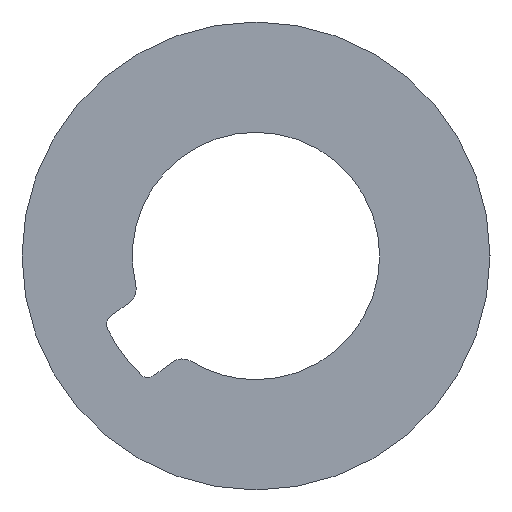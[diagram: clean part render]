
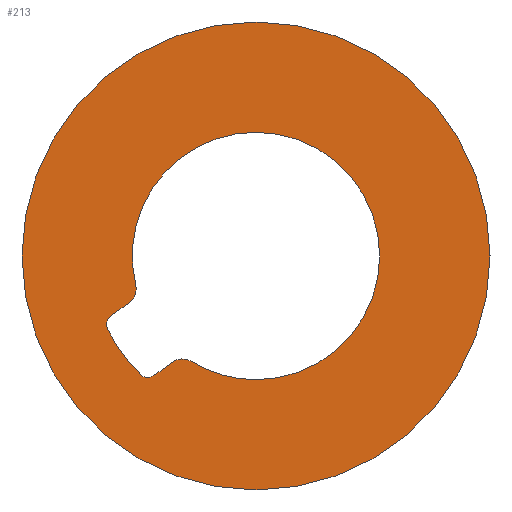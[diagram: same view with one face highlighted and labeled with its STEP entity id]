
A CAD part, left-side view. The second image highlights one B-rep face of the part: STEP entity #213.
In plain terms, the highlighted planar face has unit normal (-1, 0, 0).
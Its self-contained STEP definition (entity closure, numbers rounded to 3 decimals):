
#3 = ORIENTED_EDGE ( 'NONE', *, *, #275, .T. ) ;
#6 = ORIENTED_EDGE ( 'NONE', *, *, #288, .F. ) ;
#9 = ORIENTED_EDGE ( 'NONE', *, *, #290, .T. ) ;
#10 = ORIENTED_EDGE ( 'NONE', *, *, #289, .T. ) ;
#11 = ORIENTED_EDGE ( 'NONE', *, *, #268, .F. ) ;
#12 = ORIENTED_EDGE ( 'NONE', *, *, #272, .T. ) ;
#13 = ORIENTED_EDGE ( 'NONE', *, *, #279, .T. ) ;
#17 = ORIENTED_EDGE ( 'NONE', *, *, #293, .T. ) ;
#20 = ORIENTED_EDGE ( 'NONE', *, *, #292, .T. ) ;
#21 = ORIENTED_EDGE ( 'NONE', *, *, #291, .T. ) ;
#22 = ORIENTED_EDGE ( 'NONE', *, *, #295, .T. ) ;
#23 = ORIENTED_EDGE ( 'NONE', *, *, #294, .T. ) ;
#24 = ORIENTED_EDGE ( 'NONE', *, *, #262, .T. ) ;
#35 = CIRCLE ( 'NONE', #221, 0.3 ) ;
#37 = CIRCLE ( 'NONE', #222, 4.95 ) ;
#41 = CIRCLE ( 'NONE', #223, 0.3 ) ;
#42 = VECTOR ( 'NONE', #524, 1000. ) ;
#45 = CIRCLE ( 'NONE', #225, 0.5 ) ;
#46 = LINE ( 'NONE', #511, #42 ) ;
#47 = CIRCLE ( 'NONE', #226, 0.5 ) ;
#52 = VECTOR ( 'NONE', #465, 1000. ) ;
#53 = CIRCLE ( 'NONE', #227, 7. ) ;
#54 = LINE ( 'NONE', #521, #52 ) ;
#71 = CIRCLE ( 'NONE', #234, 3.7 ) ;
#79 = CIRCLE ( 'NONE', #236, 3.7 ) ;
#84 = CIRCLE ( 'NONE', #238, 3.7 ) ;
#94 = CIRCLE ( 'NONE', #240, 7. ) ;
#104 = CIRCLE ( 'NONE', #243, 0.3 ) ;
#113 = FACE_BOUND ( 'NONE', #158, .T. ) ;
#114 = FACE_OUTER_BOUND ( 'NONE', #157, .T. ) ;
#157 = EDGE_LOOP ( 'NONE', ( #6, #11 ) ) ;
#158 = EDGE_LOOP ( 'NONE', ( #10, #9, #3, #12, #13, #21, #20, #17, #24, #23, #22 ) ) ;
#213 = ADVANCED_FACE ( 'NONE', ( #114, #113 ), #397, .F. ) ;
#221 = AXIS2_PLACEMENT_3D ( 'NONE', #507, #508, #512 ) ;
#222 = AXIS2_PLACEMENT_3D ( 'NONE', #519, #518, #517 ) ;
#223 = AXIS2_PLACEMENT_3D ( 'NONE', #495, #479, #473 ) ;
#225 = AXIS2_PLACEMENT_3D ( 'NONE', #515, #516, #523 ) ;
#226 = AXIS2_PLACEMENT_3D ( 'NONE', #522, #520, #456 ) ;
#227 = AXIS2_PLACEMENT_3D ( 'NONE', #509, #510, #460 ) ;
#234 = AXIS2_PLACEMENT_3D ( 'NONE', #322, #321, #320 ) ;
#236 = AXIS2_PLACEMENT_3D ( 'NONE', #336, #335, #334 ) ;
#238 = AXIS2_PLACEMENT_3D ( 'NONE', #345, #343, #342 ) ;
#240 = AXIS2_PLACEMENT_3D ( 'NONE', #356, #354, #353 ) ;
#243 = AXIS2_PLACEMENT_3D ( 'NONE', #378, #377, #376 ) ;
#246 = AXIS2_PLACEMENT_3D ( 'NONE', #396, #394, #393 ) ;
#262 = EDGE_CURVE ( 'NONE', #450, #402, #104, .T. ) ;
#268 = EDGE_CURVE ( 'NONE', #383, #365, #94, .T. ) ;
#272 = EDGE_CURVE ( 'NONE', #387, #306, #84, .T. ) ;
#275 = EDGE_CURVE ( 'NONE', #326, #387, #79, .T. ) ;
#279 = EDGE_CURVE ( 'NONE', #306, #371, #71, .T. ) ;
#288 = EDGE_CURVE ( 'NONE', #365, #383, #53, .T. ) ;
#289 = EDGE_CURVE ( 'NONE', #449, #445, #54, .T. ) ;
#290 = EDGE_CURVE ( 'NONE', #445, #326, #47, .T. ) ;
#291 = EDGE_CURVE ( 'NONE', #371, #446, #45, .T. ) ;
#292 = EDGE_CURVE ( 'NONE', #446, #448, #46, .T. ) ;
#293 = EDGE_CURVE ( 'NONE', #448, #450, #41, .T. ) ;
#294 = EDGE_CURVE ( 'NONE', #402, #447, #37, .T. ) ;
#295 = EDGE_CURVE ( 'NONE', #447, #449, #35, .T. ) ;
#306 = VERTEX_POINT ( 'NONE', #454 ) ;
#320 = DIRECTION ( 'NONE',  ( 0., 0., -1. ) ) ;
#321 = DIRECTION ( 'NONE',  ( 1., 0., 0. ) ) ;
#322 = CARTESIAN_POINT ( 'NONE',  ( -185.5, 0., 0. ) ) ;
#326 = VERTEX_POINT ( 'NONE', #452 ) ;
#334 = DIRECTION ( 'NONE',  ( 0., 0., -1. ) ) ;
#335 = DIRECTION ( 'NONE',  ( 1., 0., 0. ) ) ;
#336 = CARTESIAN_POINT ( 'NONE',  ( -185.5, 0., 0. ) ) ;
#342 = DIRECTION ( 'NONE',  ( 0., 0., -1. ) ) ;
#343 = DIRECTION ( 'NONE',  ( 1., 0., 0. ) ) ;
#345 = CARTESIAN_POINT ( 'NONE',  ( -185.5, 0., 0. ) ) ;
#353 = DIRECTION ( 'NONE',  ( 0., 0., -1. ) ) ;
#354 = DIRECTION ( 'NONE',  ( 1., 0., 0. ) ) ;
#356 = CARTESIAN_POINT ( 'NONE',  ( -185.5, 0., 0. ) ) ;
#365 = VERTEX_POINT ( 'NONE', #503 ) ;
#371 = VERTEX_POINT ( 'NONE', #500 ) ;
#376 = DIRECTION ( 'NONE',  ( 0., 0., 1. ) ) ;
#377 = DIRECTION ( 'NONE',  ( 1., 0., 0. ) ) ;
#378 = CARTESIAN_POINT ( 'NONE',  ( -185.5, 3.236, -3.34 ) ) ;
#383 = VERTEX_POINT ( 'NONE', #496 ) ;
#387 = VERTEX_POINT ( 'NONE', #494 ) ;
#393 = DIRECTION ( 'NONE',  ( 0., 0., -1. ) ) ;
#394 = DIRECTION ( 'NONE',  ( 1., 0., 0. ) ) ;
#396 = CARTESIAN_POINT ( 'NONE',  ( -185.5, 0., 0. ) ) ;
#397 = PLANE ( 'NONE',  #246 ) ;
#402 = VERTEX_POINT ( 'NONE', #490 ) ;
#445 = VERTEX_POINT ( 'NONE', #489 ) ;
#446 = VERTEX_POINT ( 'NONE', #488 ) ;
#447 = VERTEX_POINT ( 'NONE', #487 ) ;
#448 = VERTEX_POINT ( 'NONE', #486 ) ;
#449 = VERTEX_POINT ( 'NONE', #485 ) ;
#450 = VERTEX_POINT ( 'NONE', #484 ) ;
#452 = CARTESIAN_POINT ( 'NONE',  ( -185.5, 3.596, -0.87 ) ) ;
#454 = CARTESIAN_POINT ( 'NONE',  ( -185.5, 0., -3.7 ) ) ;
#456 = DIRECTION ( 'NONE',  ( 0., 0., 1. ) ) ;
#460 = DIRECTION ( 'NONE',  ( 0., 0., -1. ) ) ;
#465 = DIRECTION ( 'NONE',  ( 0., -0.809, 0.588 ) ) ;
#473 = DIRECTION ( 'NONE',  ( 0., 0., 1. ) ) ;
#479 = DIRECTION ( 'NONE',  ( 1., 0., 0. ) ) ;
#484 = CARTESIAN_POINT ( 'NONE',  ( -185.5, 3.236, -3.64 ) ) ;
#485 = CARTESIAN_POINT ( 'NONE',  ( -185.5, 4.352, -1.803 ) ) ;
#486 = CARTESIAN_POINT ( 'NONE',  ( -185.5, 3.059, -3.582 ) ) ;
#487 = CARTESIAN_POINT ( 'NONE',  ( -185.5, 4.445, -2.177 ) ) ;
#488 = CARTESIAN_POINT ( 'NONE',  ( -185.5, 2.495, -3.172 ) ) ;
#489 = CARTESIAN_POINT ( 'NONE',  ( -185.5, 3.788, -1.393 ) ) ;
#490 = CARTESIAN_POINT ( 'NONE',  ( -185.5, 3.444, -3.555 ) ) ;
#494 = CARTESIAN_POINT ( 'NONE',  ( -185.5, 0., 3.7 ) ) ;
#495 = CARTESIAN_POINT ( 'NONE',  ( -185.5, 3.236, -3.34 ) ) ;
#496 = CARTESIAN_POINT ( 'NONE',  ( -185.5, 0., -7. ) ) ;
#500 = CARTESIAN_POINT ( 'NONE',  ( -185.5, 1.939, -3.151 ) ) ;
#503 = CARTESIAN_POINT ( 'NONE',  ( -185.5, 0., 7. ) ) ;
#507 = CARTESIAN_POINT ( 'NONE',  ( -185.5, 4.176, -2.045 ) ) ;
#508 = DIRECTION ( 'NONE',  ( 1., 0., 0. ) ) ;
#509 = CARTESIAN_POINT ( 'NONE',  ( -185.5, 0., 0. ) ) ;
#510 = DIRECTION ( 'NONE',  ( 1., 0., 0. ) ) ;
#511 = CARTESIAN_POINT ( 'NONE',  ( -185.5, 3.059, -3.582 ) ) ;
#512 = DIRECTION ( 'NONE',  ( 0., 0., -1. ) ) ;
#515 = CARTESIAN_POINT ( 'NONE',  ( -185.5, 2.201, -3.577 ) ) ;
#516 = DIRECTION ( 'NONE',  ( -1., 0., 0. ) ) ;
#517 = DIRECTION ( 'NONE',  ( 0., 0., 1. ) ) ;
#518 = DIRECTION ( 'NONE',  ( 1., 0., 0. ) ) ;
#519 = CARTESIAN_POINT ( 'NONE',  ( -185.5, 0., 0. ) ) ;
#520 = DIRECTION ( 'NONE',  ( -1., 0., 0. ) ) ;
#521 = CARTESIAN_POINT ( 'NONE',  ( -185.5, 3.788, -1.393 ) ) ;
#522 = CARTESIAN_POINT ( 'NONE',  ( -185.5, 4.082, -0.988 ) ) ;
#523 = DIRECTION ( 'NONE',  ( 0., 0., -1. ) ) ;
#524 = DIRECTION ( 'NONE',  ( 0., 0.809, -0.588 ) ) ;
